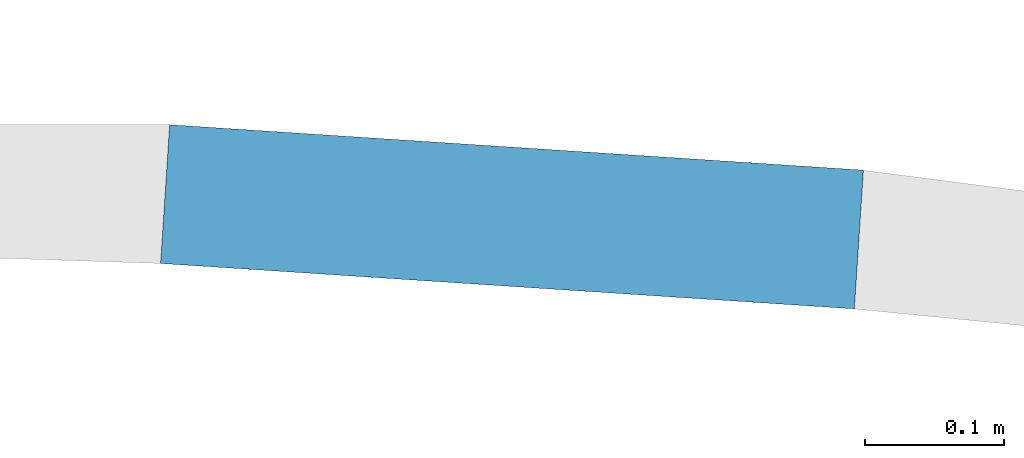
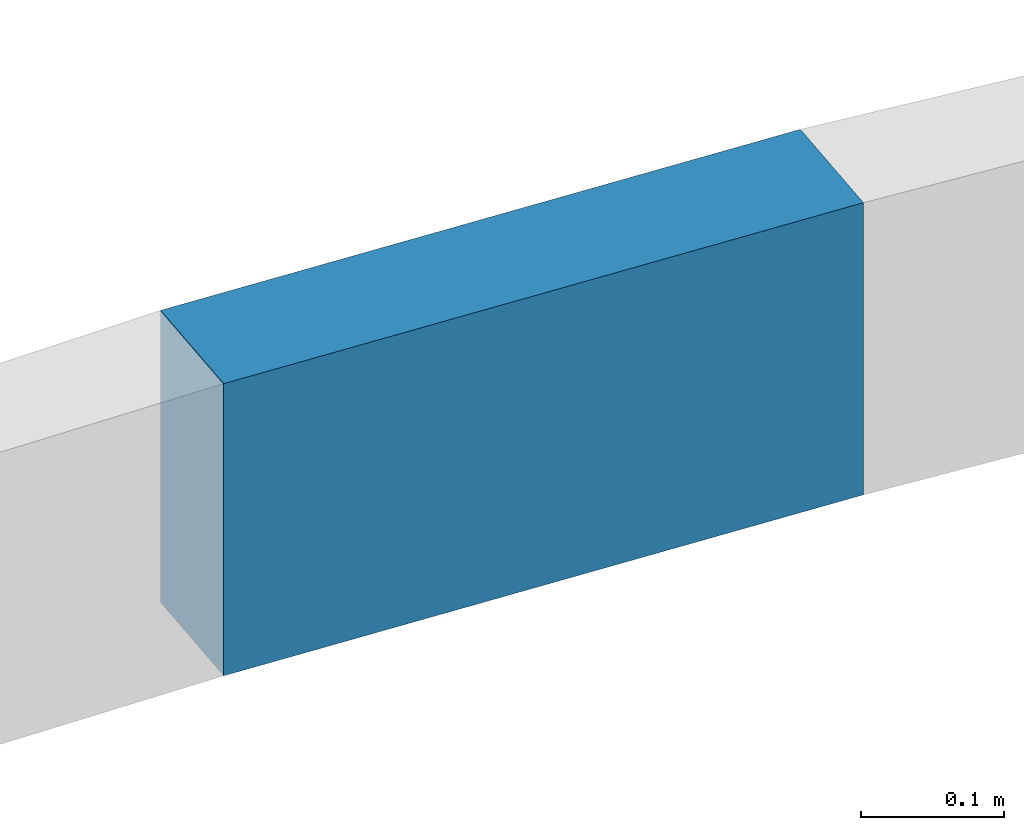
# One storey, part 9 of 112: 1 beam.
"""IFC2X3 building model written with IfcOpenShell, lengths in millimetres."""

from ifc_helpers import new_model, entity, si_unit, converted_unit, derived_unit, direction, frame, frame_2d, origin, place, context, subcontext, project, spatial, rectangle, extrude, material, type_object, element, save


model = new_model("IFC2X3")

# Units and contexts
model_context = context("Model", 3, precision=0.01, world=origin(), true_north=direction((6.123031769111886e-17, 1.0)))
body_context = subcontext(model_context, "Body", "Model", "MODEL_VIEW")
ifc_project = project(units=[si_unit("LENGTHUNIT", "METRE", prefix="MILLI"), si_unit("AREAUNIT", "SQUARE_METRE"), si_unit("VOLUMEUNIT", "CUBIC_METRE"), converted_unit("PLANEANGLEUNIT", "DEGREE", entity("IfcRatioMeasure", 0.017453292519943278), si_unit("PLANEANGLEUNIT", "RADIAN"), dimensions=[0, 0, 0, 0, 0, 0, 0]), si_unit("MASSUNIT", "GRAM", prefix="KILO"), derived_unit("MASSDENSITYUNIT", [(si_unit("MASSUNIT", "GRAM", prefix="KILO"), 1), (si_unit("LENGTHUNIT", "METRE"), -3)]), derived_unit("MOMENTOFINERTIAUNIT", [(si_unit("LENGTHUNIT", "METRE"), 4)]), si_unit("TIMEUNIT", "SECOND"), si_unit("FREQUENCYUNIT", "HERTZ"), si_unit("THERMODYNAMICTEMPERATUREUNIT", "DEGREE_CELSIUS"), derived_unit("THERMALTRANSMITTANCEUNIT", [(si_unit("MASSUNIT", "GRAM", prefix="KILO"), 1), (si_unit("THERMODYNAMICTEMPERATUREUNIT", "KELVIN"), -1), (si_unit("TIMEUNIT", "SECOND"), -3)]), derived_unit("THERMALCONDUCTANCEUNIT", [(si_unit("MASSUNIT", "GRAM", prefix="KILO"), 1), (si_unit("LENGTHUNIT", "METRE"), 1), (si_unit("THERMODYNAMICTEMPERATUREUNIT", "KELVIN"), -1), (si_unit("TIMEUNIT", "SECOND"), -3)]), derived_unit("VOLUMETRICFLOWRATEUNIT", [(si_unit("LENGTHUNIT", "METRE"), 3), (si_unit("TIMEUNIT", "SECOND"), -1)]), derived_unit("MASSFLOWRATEUNIT", [(si_unit("MASSUNIT", "GRAM", prefix="KILO"), 1), (si_unit("TIMEUNIT", "SECOND"), -1)]), derived_unit("ROTATIONALFREQUENCYUNIT", [(si_unit("TIMEUNIT", "SECOND"), -1)]), si_unit("ELECTRICCURRENTUNIT", "AMPERE"), si_unit("ELECTRICVOLTAGEUNIT", "VOLT"), si_unit("POWERUNIT", "WATT"), converted_unit("FORCEUNIT", "KIP", entity("IfcRatioMeasure", 2.088543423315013e-05), si_unit("FORCEUNIT", "NEWTON"), dimensions=[1, 1, -2, 0, 0, 0, 0]), si_unit("ILLUMINANCEUNIT", "LUX"), si_unit("LUMINOUSFLUXUNIT", "LUMEN"), si_unit("LUMINOUSINTENSITYUNIT", "CANDELA"), derived_unit("USERDEFINED", [(si_unit("MASSUNIT", "GRAM", prefix="KILO"), -1), (si_unit("LENGTHUNIT", "METRE"), -2), (si_unit("TIMEUNIT", "SECOND"), 3), (si_unit("LUMINOUSFLUXUNIT", "LUMEN"), 1)]), derived_unit("USERDEFINED", [(si_unit("MASSUNIT", "GRAM", prefix="KILO"), 1), (si_unit("LENGTHUNIT", "METRE"), 3), (si_unit("TIMEUNIT", "SECOND"), -3), (si_unit("ELECTRICCURRENTUNIT", "AMPERE"), -2)]), derived_unit("USERDEFINED", [(si_unit("LENGTHUNIT", "METRE"), 2), (si_unit("TIMEUNIT", "SECOND"), -2)]), derived_unit("SOUNDPOWERUNIT", [(si_unit("MASSUNIT", "GRAM", prefix="KILO"), 1), (si_unit("LENGTHUNIT", "METRE"), 2), (si_unit("TIMEUNIT", "SECOND"), -3)]), derived_unit("SOUNDPRESSUREUNIT", [(si_unit("MASSUNIT", "GRAM", prefix="KILO"), 1), (si_unit("LENGTHUNIT", "METRE"), -1), (si_unit("TIMEUNIT", "SECOND"), -2)]), derived_unit("LINEARVELOCITYUNIT", [(si_unit("LENGTHUNIT", "METRE"), 1), (si_unit("TIMEUNIT", "SECOND"), -1)]), si_unit("PRESSUREUNIT", "PASCAL"), derived_unit("USERDEFINED", [(si_unit("LENGTHUNIT", "METRE"), -2), (si_unit("MASSUNIT", "GRAM", prefix="KILO"), 1), (si_unit("TIMEUNIT", "SECOND"), -2)]), derived_unit("LINEARFORCEUNIT", [(si_unit("MASSUNIT", "GRAM", prefix="KILO"), 1), (si_unit("LENGTHUNIT", "METRE"), 1), (si_unit("TIMEUNIT", "SECOND"), -2), (si_unit("LENGTHUNIT", "METRE"), -1)]), derived_unit("PLANARFORCEUNIT", [(si_unit("MASSUNIT", "GRAM", prefix="KILO"), 1), (si_unit("LENGTHUNIT", "METRE"), 1), (si_unit("TIMEUNIT", "SECOND"), -2), (si_unit("LENGTHUNIT", "METRE"), -2)]), derived_unit("SPECIFICHEATCAPACITYUNIT", [(si_unit("LENGTHUNIT", "METRE"), 2), (si_unit("TIMEUNIT", "SECOND"), -2), (si_unit("THERMODYNAMICTEMPERATUREUNIT", "KELVIN"), -1)]), derived_unit("VAPORPERMEABILITYUNIT", [(si_unit("TIMEUNIT", "SECOND"), 1), (si_unit("LENGTHUNIT", "METRE"), -1)]), derived_unit("DYNAMICVISCOSITYUNIT", [(si_unit("MASSUNIT", "GRAM", prefix="KILO"), 1), (si_unit("LENGTHUNIT", "METRE"), -1), (si_unit("TIMEUNIT", "SECOND"), -1)]), derived_unit("THERMALEXPANSIONCOEFFICIENTUNIT", [(si_unit("THERMODYNAMICTEMPERATUREUNIT", "KELVIN"), -1)])], contexts=[model_context])

# Site, building, storey
site_placement = place(None, frame((0.0, 0.0, 0.0), z_axis=(0.0, 0.0, 1.0), x_axis=(0.8191520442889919, 0.5735764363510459, 0.0)))
site = spatial("IfcSite", under=ifc_project, at=site_placement, Name="Default", CompositionType="ELEMENT")
building_placement = place(site_placement, origin())
building = spatial("IfcBuilding", under=site, at=building_placement, CompositionType="ELEMENT")
storey_placement = place(building_placement, frame((0.0, 0.0, -3600.0)))
storey = spatial("IfcBuildingStorey", under=building, at=storey_placement, Name="0.UG -3.60", CompositionType="ELEMENT", Elevation=-3600.0000000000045)

# Beam
ifc_material = material(Name="Paveta_bordur")
beam_type = type_object("IfcBeamType", Name="Beam-161 236914:Beam-161 236914", PredefinedType="NOTDEFINED")
beam_placement = place(storey_placement, origin())
element("IfcBeam", 1, at=beam_placement, inside=storey, type_object=beam_type, material=ifc_material, Name="Beam-161", ObjectType="Beam-161 236914:Beam-161 236914", context=body_context, shape_type="SweptSolid", body=[
    extrude(rectangle(XDim=250.00000000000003, YDim=100.0000000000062, at=frame_2d((2.7000623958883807e-13, 5.417888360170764e-12), x_axis=(1.0, 0.0))), frame((154503.47447860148, 194383.34580012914, 985.0), z_axis=(0.7799518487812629, -0.625839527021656, 0.0), x_axis=(0.0, 0.0, -1.0)), (0.0, 0.0, 1.0), 499.99999936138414),
])

save(model, "model.ifc")
